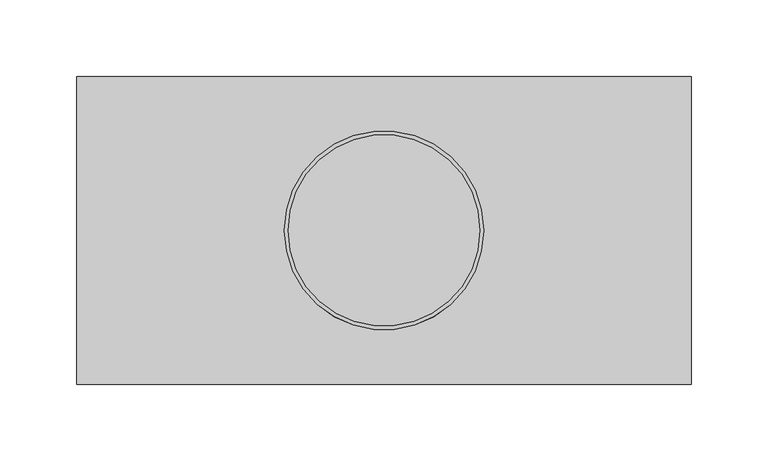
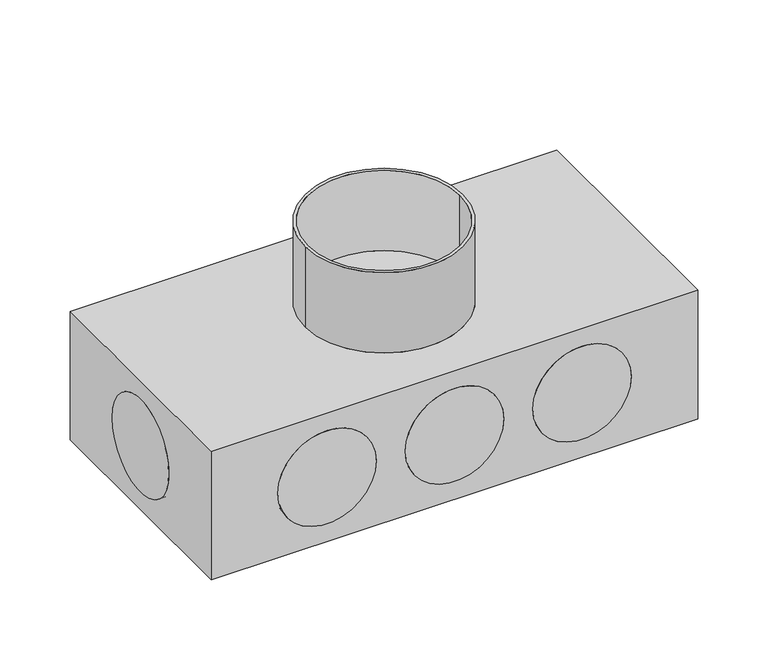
"""IFC4 building model written with IfcOpenShell, lengths in millimetres: duct fitting geometry, NLRS_57_DUF_UN_air extraction plenum rectangular 400x200_M&G : 225#8 (H=110)."""

from ifc_helpers import new_model, si_unit, frame, origin, origin_with_axes, place, context, project, spatial, polyline, circle_curve, ellipse_curve, source, transform, mapped, element, save
from ifc_brep_helpers import plane_surface, cylinder_surface, revolved_surface, advanced_brep


def duct_fitting_607b8d79(model_context):
    return source(origin(), model_context, "Body", "AdvancedBrep", [
        advanced_brep(
        [(-145.5, -100.5, 56.0), (-64.5, -100.5, 56.0), (-40.5, -100.5, 56.0), (40.5, -100.5, 56.0), (64.5, -100.5, 56.0), (145.5, -100.5, 56.0), (-145.5, 100.5, 56.0), (-64.5, 100.5, 56.0), (-40.5, 100.5, 56.0), (40.5, 100.5, 56.0), (64.5, 100.5, 56.0), (145.5, 100.5, 56.0), (-145.5, -40.5, 56.0), (-105.0, 0.0, 15.5), (-64.5, -40.5, 56.0), (-64.5, 40.5, 56.0), (-145.5, 40.5, 56.0), (-105.0, 0.0, 96.5), (-40.5, -40.5, 56.0), (0.0, 0.0, 15.5), (40.5, -40.5, 56.0), (40.5, 40.5, 56.0), (-40.5, 40.5, 56.0), (0.0, 0.0, 96.5), (64.5, -40.5, 56.0), (105.0, 0.0, 15.5), (145.5, -40.5, 56.0), (145.5, 40.5, 56.0), (64.5, 40.5, 56.0), (105.0, 0.0, 96.5), (200.5, -40.5, 56.0), (200.5, 40.5, 56.0), (-200.5, -40.5, 56.0), (-200.5, 40.5, 56.0)],
        [
            (0, 1, circle_curve(frame((-105.0, -100.5, 56.0), z_axis=(0.0, -1.0, 0.0), x_axis=(1.0, 0.0, 0.0)), 40.5)),
            (1, 0, circle_curve(frame((-105.0, -100.5, 56.0), z_axis=(0.0, -1.0, 0.0), x_axis=(1.0, 0.0, 0.0)), 40.5)),
            (2, 3, circle_curve(frame((0.0, -100.5, 56.0), z_axis=(0.0, -1.0, 0.0), x_axis=(1.0, 0.0, 0.0)), 40.5)),
            (3, 2, circle_curve(frame((0.0, -100.5, 56.0), z_axis=(0.0, -1.0, 0.0), x_axis=(1.0, 0.0, 0.0)), 40.5)),
            (4, 5, circle_curve(frame((105.0, -100.5, 56.0), z_axis=(0.0, -1.0, 0.0), x_axis=(1.0, 0.0, 0.0)), 40.5)),
            (5, 4, circle_curve(frame((105.0, -100.5, 56.0), z_axis=(0.0, -1.0, 0.0), x_axis=(1.0, 0.0, 0.0)), 40.5)),
            (6, 7, circle_curve(frame((-105.0, 100.5, 56.0), z_axis=(0.0, 1.0, 0.0), x_axis=(1.0, 0.0, 0.0)), 40.5)),
            (7, 6, circle_curve(frame((-105.0, 100.5, 56.0), z_axis=(0.0, 1.0, 0.0), x_axis=(1.0, 0.0, 0.0)), 40.5)),
            (8, 9, circle_curve(frame((0.0, 100.5, 56.0), z_axis=(0.0, 1.0, 0.0), x_axis=(1.0, 0.0, 0.0)), 40.5)),
            (9, 8, circle_curve(frame((0.0, 100.5, 56.0), z_axis=(0.0, 1.0, 0.0), x_axis=(1.0, 0.0, 0.0)), 40.5)),
            (10, 11, circle_curve(frame((105.0, 100.5, 56.0), z_axis=(0.0, 1.0, 0.0), x_axis=(1.0, 0.0, 0.0)), 40.5)),
            (11, 10, circle_curve(frame((105.0, 100.5, 56.0), z_axis=(0.0, 1.0, 0.0), x_axis=(1.0, 0.0, 0.0)), 40.5)),
            (0, 12),
            (12, 13, ellipse_curve(frame((-105.0, 0.0, 56.0), z_axis=(0.7071067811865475, -0.7071067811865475, 0.0), x_axis=(-0.7071067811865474, -0.7071067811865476, 0.0)), 57.2756493, 40.5)),
            (13, 14, ellipse_curve(frame((-105.0, 0.0, 56.0), z_axis=(-0.7071067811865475, -0.7071067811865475, 0.0), x_axis=(0.7071067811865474, -0.7071067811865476, 0.0)), 57.2756493, 40.5)),
            (14, 1),
            (7, 15),
            (15, 13, ellipse_curve(frame((-105.0, 0.0, 56.0), z_axis=(-0.7071067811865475, 0.7071067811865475, 0.0), x_axis=(-0.7071067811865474, -0.7071067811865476, 0.0)), 57.2756493, 40.5)),
            (13, 16, ellipse_curve(frame((-105.0, 0.0, 56.0), z_axis=(0.7071067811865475, 0.7071067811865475, 0.0), x_axis=(0.7071067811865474, -0.7071067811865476, 0.0)), 57.2756493, 40.5)),
            (16, 6),
            (14, 17, ellipse_curve(frame((-105.0, 0.0, 56.0), z_axis=(-0.7071067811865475, -0.7071067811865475, 0.0), x_axis=(0.7071067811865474, -0.7071067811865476, 0.0)), 57.2756493, 40.5)),
            (17, 12, ellipse_curve(frame((-105.0, 0.0, 56.0), z_axis=(0.7071067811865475, -0.7071067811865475, 0.0), x_axis=(-0.7071067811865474, -0.7071067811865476, 0.0)), 57.2756493, 40.5)),
            (16, 17, ellipse_curve(frame((-105.0, 0.0, 56.0), z_axis=(0.7071067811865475, 0.7071067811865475, 0.0), x_axis=(0.7071067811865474, -0.7071067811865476, 0.0)), 57.2756493, 40.5)),
            (17, 15, ellipse_curve(frame((-105.0, 0.0, 56.0), z_axis=(-0.7071067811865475, 0.7071067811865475, 0.0), x_axis=(-0.7071067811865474, -0.7071067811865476, 0.0)), 57.2756493, 40.5)),
            (2, 18),
            (18, 19, ellipse_curve(frame((0.0, 0.0, 56.0), z_axis=(0.7071067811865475, -0.7071067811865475, 0.0), x_axis=(-0.7071067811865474, -0.7071067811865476, 0.0)), 57.2756493, 40.5)),
            (19, 20, ellipse_curve(frame((0.0, 0.0, 56.0), z_axis=(-0.7071067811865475, -0.7071067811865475, 0.0), x_axis=(0.7071067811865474, -0.7071067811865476, 0.0)), 57.2756493, 40.5)),
            (20, 3),
            (9, 21),
            (21, 19, ellipse_curve(frame((0.0, 0.0, 56.0), z_axis=(-0.7071067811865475, 0.7071067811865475, 0.0), x_axis=(-0.7071067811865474, -0.7071067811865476, 0.0)), 57.2756493, 40.5)),
            (19, 22, ellipse_curve(frame((0.0, 0.0, 56.0), z_axis=(0.7071067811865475, 0.7071067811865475, 0.0), x_axis=(0.7071067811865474, -0.7071067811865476, 0.0)), 57.2756493, 40.5)),
            (22, 8),
            (20, 23, ellipse_curve(frame((0.0, 0.0, 56.0), z_axis=(-0.7071067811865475, -0.7071067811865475, 0.0), x_axis=(0.7071067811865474, -0.7071067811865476, 0.0)), 57.2756493, 40.5)),
            (23, 18, ellipse_curve(frame((0.0, 0.0, 56.0), z_axis=(0.7071067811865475, -0.7071067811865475, 0.0), x_axis=(-0.7071067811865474, -0.7071067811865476, 0.0)), 57.2756493, 40.5)),
            (22, 23, ellipse_curve(frame((0.0, 0.0, 56.0), z_axis=(0.7071067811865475, 0.7071067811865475, 0.0), x_axis=(0.7071067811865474, -0.7071067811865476, 0.0)), 57.2756493, 40.5)),
            (23, 21, ellipse_curve(frame((0.0, 0.0, 56.0), z_axis=(-0.7071067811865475, 0.7071067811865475, 0.0), x_axis=(-0.7071067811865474, -0.7071067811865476, 0.0)), 57.2756493, 40.5)),
            (4, 24),
            (24, 25, ellipse_curve(frame((105.0, 0.0, 56.0), z_axis=(0.7071067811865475, -0.7071067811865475, 0.0), x_axis=(-0.7071067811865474, -0.7071067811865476, 0.0)), 57.2756493, 40.5)),
            (25, 26, ellipse_curve(frame((105.0, 0.0, 56.0), z_axis=(-0.7071067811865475, -0.7071067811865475, 0.0), x_axis=(0.7071067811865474, -0.7071067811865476, 0.0)), 57.2756493, 40.5)),
            (26, 5),
            (11, 27),
            (27, 25, ellipse_curve(frame((105.0, 0.0, 56.0), z_axis=(-0.7071067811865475, 0.7071067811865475, 0.0), x_axis=(-0.7071067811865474, -0.7071067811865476, 0.0)), 57.2756493, 40.5)),
            (25, 28, ellipse_curve(frame((105.0, 0.0, 56.0), z_axis=(0.7071067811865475, 0.7071067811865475, 0.0), x_axis=(0.7071067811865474, -0.7071067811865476, 0.0)), 57.2756493, 40.5)),
            (28, 10),
            (26, 29, ellipse_curve(frame((105.0, 0.0, 56.0), z_axis=(-0.7071067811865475, -0.7071067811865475, 0.0), x_axis=(0.7071067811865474, -0.7071067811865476, 0.0)), 57.2756493, 40.5)),
            (29, 24, ellipse_curve(frame((105.0, 0.0, 56.0), z_axis=(0.7071067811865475, -0.7071067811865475, 0.0), x_axis=(-0.7071067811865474, -0.7071067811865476, 0.0)), 57.2756493, 40.5)),
            (28, 29, ellipse_curve(frame((105.0, 0.0, 56.0), z_axis=(0.7071067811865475, 0.7071067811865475, 0.0), x_axis=(0.7071067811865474, -0.7071067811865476, 0.0)), 57.2756493, 40.5)),
            (29, 27, ellipse_curve(frame((105.0, 0.0, 56.0), z_axis=(-0.7071067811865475, 0.7071067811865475, 0.0), x_axis=(-0.7071067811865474, -0.7071067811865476, 0.0)), 57.2756493, 40.5)),
            (30, 31, circle_curve(frame((200.5, 0.0, 56.0), z_axis=(1.0, 0.0, 0.0), x_axis=(0.0, 1.0, 0.0)), 40.5)),
            (31, 30, circle_curve(frame((200.5, 0.0, 56.0), z_axis=(1.0, 0.0, 0.0), x_axis=(0.0, 1.0, 0.0)), 40.5)),
            (32, 33, circle_curve(frame((-200.5, 0.0, 56.0), z_axis=(-1.0, 0.0, 0.0), x_axis=(0.0, 1.0, 0.0)), 40.5)),
            (33, 32, circle_curve(frame((-200.5, 0.0, 56.0), z_axis=(-1.0, 0.0, 0.0), x_axis=(0.0, 1.0, 0.0)), 40.5)),
            (30, 26),
            (27, 31),
            (33, 16),
            (12, 32),
            (15, 22),
            (18, 14),
            (21, 28),
            (24, 20),
        ],
        [
            plane_surface(frame((-64.5, -100.5, 56.0), z_axis=(0.0, -1.0, 0.0), x_axis=(0.0, 0.0, 1.0))),
            plane_surface(frame((-64.5, 100.5, 56.0), z_axis=(0.0, 1.0, 0.0), x_axis=(0.0, 0.0, -1.0))),
            cylinder_surface(frame((-105.0, 100.5, 56.0), z_axis=(0.0, -1.0, 0.0), x_axis=(1.0, 0.0, 0.0)), 40.5),
            cylinder_surface(frame((0.0, 0.0, 56.0), z_axis=(0.0, -1.0, 0.0), x_axis=(1.0, 0.0, 0.0)), 40.5),
            cylinder_surface(frame((105.0, 0.0, 56.0), z_axis=(0.0, -1.0, 0.0), x_axis=(1.0, 0.0, 0.0)), 40.5),
            plane_surface(frame((200.5, 40.5, 56.0), z_axis=(1.0, 0.0, 0.0), x_axis=(0.0, 0.0, 1.0))),
            plane_surface(frame((-200.5, 40.5, 56.0), z_axis=(-1.0, 0.0, 0.0), x_axis=(0.0, 0.0, -1.0))),
            cylinder_surface(frame((-200.5, 0.0, 56.0), z_axis=(1.0, 0.0, 0.0), x_axis=(0.0, 1.0, 0.0)), 40.5),
        ],
        [
            (0, [[1, 2]]),
            (0, [[3, 4]]),
            (0, [[5, 6]]),
            (1, [[7, 8]]),
            (1, [[9, 10]]),
            (1, [[11, 12]]),
            (2, [[-1, 13, 14, 15, 16]]),
            (2, [[-8, 17, 18, 19, 20]]),
            (2, [[-2, -16, 21, 22, -13]]),
            (2, [[-7, -20, 23, 24, -17]]),
            (3, [[-3, 25, 26, 27, 28]]),
            (3, [[-10, 29, 30, 31, 32]]),
            (3, [[-4, -28, 33, 34, -25]]),
            (3, [[-9, -32, 35, 36, -29]]),
            (4, [[-5, 37, 38, 39, 40]]),
            (4, [[-12, 41, 42, 43, 44]]),
            (4, [[-6, -40, 45, 46, -37]]),
            (4, [[-11, -44, 47, 48, -41]]),
            (5, [[49, 50]]),
            (6, [[51, 52]]),
            (7, [[-49, 53, -39, -42, 54]]),
            (7, [[-52, 55, -19, -14, 56]]),
            (7, [[57, -31, -26, 58, -15, -18]]),
            (7, [[59, -43, -38, 60, -27, -30]]),
            (7, [[-50, -54, -48, -45, -53]]),
            (7, [[-51, -56, -22, -23, -55]]),
            (7, [[-57, -24, -21, -58, -34, -35]]),
            (7, [[-59, -36, -33, -60, -46, -47]]),
        ],
    ),
        advanced_brep(
        [(200.5, 100.5, 112.0), (-200.5, 100.5, 112.0), (-200.5, -100.5, 112.0), (200.5, -100.5, 112.0), (-65.0, 0.0, 112.0), (65.0, 0.0, 112.0), (-62.5, 0.0, 112.0), (62.5, 0.0, 112.0), (200.5, 100.5, 0.0), (200.5, -100.5, 0.0), (-200.5, -100.5, 0.0), (-200.5, 100.5, 0.0), (-145.5, 100.5, 56.0), (-64.5, 100.5, 56.0), (-40.5, 100.5, 56.0), (40.5, 100.5, 56.0), (64.5, 100.5, 56.0), (145.5, 100.5, 56.0), (-200.5, -40.5, 56.0), (-200.5, 40.5, 56.0), (-64.5, -100.5, 56.0), (-145.5, -100.5, 56.0), (40.5, -100.5, 56.0), (-40.5, -100.5, 56.0), (145.5, -100.5, 56.0), (64.5, -100.5, 56.0), (200.5, 40.5, 56.0), (200.5, -40.5, 56.0), (-65.0, 0.0, 182.0), (65.0, 0.0, 182.0), (-62.5, 0.0, 182.0), (62.5, 0.0, 182.0), (-145.5, 40.5, 56.0), (-105.0, 0.0, 15.5), (-64.5, 40.5, 56.0), (-64.5, -40.5, 56.0), (-145.5, -40.5, 56.0), (-105.0, 0.0, 96.5), (-40.5, 40.5, 56.0), (0.0, 0.0, 15.5), (40.5, 40.5, 56.0), (40.5, -40.5, 56.0), (-40.5, -40.5, 56.0), (0.0, 0.0, 96.5), (64.5, 40.5, 56.0), (105.0, 0.0, 15.5), (145.5, 40.5, 56.0), (145.5, -40.5, 56.0), (64.5, -40.5, 56.0), (105.0, 0.0, 96.5)],
        [
            (0, 1),
            (1, 2),
            (2, 3),
            (3, 0),
            (4, 5, circle_curve(frame((0.0, 0.0, 112.0), z_axis=(0.0, 0.0, -1.0), x_axis=(1.0, 0.0, 0.0)), 65.0)),
            (5, 4, circle_curve(frame((0.0, 0.0, 112.0), z_axis=(0.0, 0.0, -1.0), x_axis=(1.0, 0.0, 0.0)), 65.0)),
            (6, 7, circle_curve(frame((0.0, 0.0, 112.0), z_axis=(0.0, 0.0, 1.0), x_axis=(1.0, 0.0, 0.0)), 62.5)),
            (7, 6, circle_curve(frame((0.0, 0.0, 112.0), z_axis=(0.0, 0.0, 1.0), x_axis=(1.0, 0.0, 0.0)), 62.5)),
            (8, 9),
            (9, 10),
            (10, 11),
            (11, 8),
            (0, 8),
            (11, 1),
            (12, 13, circle_curve(frame((-105.0, 100.5, 56.0), z_axis=(0.0, -1.0, 0.0), x_axis=(1.0, 0.0, 0.0)), 40.5)),
            (13, 12, circle_curve(frame((-105.0, 100.5, 56.0), z_axis=(0.0, -1.0, 0.0), x_axis=(1.0, 0.0, 0.0)), 40.5)),
            (14, 15, circle_curve(frame((0.0, 100.5, 56.0), z_axis=(0.0, -1.0, 0.0), x_axis=(1.0, 0.0, 0.0)), 40.5)),
            (15, 14, circle_curve(frame((0.0, 100.5, 56.0), z_axis=(0.0, -1.0, 0.0), x_axis=(1.0, 0.0, 0.0)), 40.5)),
            (16, 17, circle_curve(frame((105.0, 100.5, 56.0), z_axis=(0.0, -1.0, 0.0), x_axis=(1.0, 0.0, 0.0)), 40.5)),
            (17, 16, circle_curve(frame((105.0, 100.5, 56.0), z_axis=(0.0, -1.0, 0.0), x_axis=(1.0, 0.0, 0.0)), 40.5)),
            (10, 2),
            (18, 19, circle_curve(frame((-200.5, 0.0, 56.0), z_axis=(1.0, 0.0, 0.0), x_axis=(0.0, 1.0, 0.0)), 40.5)),
            (19, 18, circle_curve(frame((-200.5, 0.0, 56.0), z_axis=(1.0, 0.0, 0.0), x_axis=(0.0, 1.0, 0.0)), 40.5)),
            (9, 3),
            (20, 21, circle_curve(frame((-105.0, -100.5, 56.0), z_axis=(0.0, 1.0, 0.0), x_axis=(1.0, 0.0, 0.0)), 40.5)),
            (21, 20, circle_curve(frame((-105.0, -100.5, 56.0), z_axis=(0.0, 1.0, 0.0), x_axis=(1.0, 0.0, 0.0)), 40.5)),
            (22, 23, circle_curve(frame((0.0, -100.5, 56.0), z_axis=(0.0, 1.0, 0.0), x_axis=(1.0, 0.0, 0.0)), 40.5)),
            (23, 22, circle_curve(frame((0.0, -100.5, 56.0), z_axis=(0.0, 1.0, 0.0), x_axis=(1.0, 0.0, 0.0)), 40.5)),
            (24, 25, circle_curve(frame((105.0, -100.5, 56.0), z_axis=(0.0, 1.0, 0.0), x_axis=(1.0, 0.0, 0.0)), 40.5)),
            (25, 24, circle_curve(frame((105.0, -100.5, 56.0), z_axis=(0.0, 1.0, 0.0), x_axis=(1.0, 0.0, 0.0)), 40.5)),
            (26, 27, circle_curve(frame((200.5, 0.0, 56.0), z_axis=(-1.0, 0.0, 0.0), x_axis=(0.0, 1.0, 0.0)), 40.5)),
            (27, 26, circle_curve(frame((200.5, 0.0, 56.0), z_axis=(-1.0, 0.0, 0.0), x_axis=(0.0, 1.0, 0.0)), 40.5)),
            (28, 29, circle_curve(frame((0.0, 0.0, 182.0), z_axis=(0.0, 0.0, 1.0), x_axis=(1.0, 0.0, 0.0)), 65.0)),
            (29, 28, circle_curve(frame((0.0, 0.0, 182.0), z_axis=(0.0, 0.0, 1.0), x_axis=(1.0, 0.0, 0.0)), 65.0)),
            (30, 31, circle_curve(frame((0.0, 0.0, 182.0), z_axis=(0.0, 0.0, -1.0), x_axis=(1.0, 0.0, 0.0)), 62.5)),
            (31, 30, circle_curve(frame((0.0, 0.0, 182.0), z_axis=(0.0, 0.0, -1.0), x_axis=(1.0, 0.0, 0.0)), 62.5)),
            (31, 7),
            (6, 30),
            (29, 5),
            (4, 28),
            (12, 32),
            (32, 33, ellipse_curve(frame((-105.0, 0.0, 56.0), z_axis=(-0.7071067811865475, -0.7071067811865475, 0.0), x_axis=(0.7071067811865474, -0.7071067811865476, 0.0)), 57.2756493, 40.5)),
            (33, 34, ellipse_curve(frame((-105.0, 0.0, 56.0), z_axis=(0.7071067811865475, -0.7071067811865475, 0.0), x_axis=(-0.7071067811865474, -0.7071067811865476, 0.0)), 57.2756493, 40.5)),
            (34, 13),
            (20, 35),
            (35, 33, ellipse_curve(frame((-105.0, 0.0, 56.0), z_axis=(0.7071067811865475, 0.7071067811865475, 0.0), x_axis=(0.7071067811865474, -0.7071067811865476, 0.0)), 57.2756493, 40.5)),
            (33, 36, ellipse_curve(frame((-105.0, 0.0, 56.0), z_axis=(-0.7071067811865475, 0.7071067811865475, 0.0), x_axis=(-0.7071067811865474, -0.7071067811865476, 0.0)), 57.2756493, 40.5)),
            (36, 21),
            (34, 37, ellipse_curve(frame((-105.0, 0.0, 56.0), z_axis=(0.7071067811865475, -0.7071067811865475, 0.0), x_axis=(-0.7071067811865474, -0.7071067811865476, 0.0)), 57.2756493, 40.5)),
            (37, 32, ellipse_curve(frame((-105.0, 0.0, 56.0), z_axis=(-0.7071067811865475, -0.7071067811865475, 0.0), x_axis=(0.7071067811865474, -0.7071067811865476, 0.0)), 57.2756493, 40.5)),
            (36, 37, ellipse_curve(frame((-105.0, 0.0, 56.0), z_axis=(-0.7071067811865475, 0.7071067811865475, 0.0), x_axis=(-0.7071067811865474, -0.7071067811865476, 0.0)), 57.2756493, 40.5)),
            (37, 35, ellipse_curve(frame((-105.0, 0.0, 56.0), z_axis=(0.7071067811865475, 0.7071067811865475, 0.0), x_axis=(0.7071067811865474, -0.7071067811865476, 0.0)), 57.2756493, 40.5)),
            (14, 38),
            (38, 39, ellipse_curve(frame((0.0, 0.0, 56.0), z_axis=(-0.7071067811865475, -0.7071067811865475, 0.0), x_axis=(0.7071067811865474, -0.7071067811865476, 0.0)), 57.2756493, 40.5)),
            (39, 40, ellipse_curve(frame((0.0, 0.0, 56.0), z_axis=(0.7071067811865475, -0.7071067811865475, 0.0), x_axis=(-0.7071067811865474, -0.7071067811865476, 0.0)), 57.2756493, 40.5)),
            (40, 15),
            (22, 41),
            (41, 39, ellipse_curve(frame((0.0, 0.0, 56.0), z_axis=(0.7071067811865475, 0.7071067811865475, 0.0), x_axis=(0.7071067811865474, -0.7071067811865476, 0.0)), 57.2756493, 40.5)),
            (39, 42, ellipse_curve(frame((0.0, 0.0, 56.0), z_axis=(-0.7071067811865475, 0.7071067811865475, 0.0), x_axis=(-0.7071067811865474, -0.7071067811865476, 0.0)), 57.2756493, 40.5)),
            (42, 23),
            (40, 43, ellipse_curve(frame((0.0, 0.0, 56.0), z_axis=(0.7071067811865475, -0.7071067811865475, 0.0), x_axis=(-0.7071067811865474, -0.7071067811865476, 0.0)), 57.2756493, 40.5)),
            (43, 38, ellipse_curve(frame((0.0, 0.0, 56.0), z_axis=(-0.7071067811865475, -0.7071067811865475, 0.0), x_axis=(0.7071067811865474, -0.7071067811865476, 0.0)), 57.2756493, 40.5)),
            (42, 43, ellipse_curve(frame((0.0, 0.0, 56.0), z_axis=(-0.7071067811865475, 0.7071067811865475, 0.0), x_axis=(-0.7071067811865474, -0.7071067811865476, 0.0)), 57.2756493, 40.5)),
            (43, 41, ellipse_curve(frame((0.0, 0.0, 56.0), z_axis=(0.7071067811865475, 0.7071067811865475, 0.0), x_axis=(0.7071067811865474, -0.7071067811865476, 0.0)), 57.2756493, 40.5)),
            (16, 44),
            (44, 45, ellipse_curve(frame((105.0, 0.0, 56.0), z_axis=(-0.7071067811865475, -0.7071067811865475, 0.0), x_axis=(0.7071067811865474, -0.7071067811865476, 0.0)), 57.2756493, 40.5)),
            (45, 46, ellipse_curve(frame((105.0, 0.0, 56.0), z_axis=(0.7071067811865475, -0.7071067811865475, 0.0), x_axis=(-0.7071067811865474, -0.7071067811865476, 0.0)), 57.2756493, 40.5)),
            (46, 17),
            (24, 47),
            (47, 45, ellipse_curve(frame((105.0, 0.0, 56.0), z_axis=(0.7071067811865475, 0.7071067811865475, 0.0), x_axis=(0.7071067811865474, -0.7071067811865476, 0.0)), 57.2756493, 40.5)),
            (45, 48, ellipse_curve(frame((105.0, 0.0, 56.0), z_axis=(-0.7071067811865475, 0.7071067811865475, 0.0), x_axis=(-0.7071067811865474, -0.7071067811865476, 0.0)), 57.2756493, 40.5)),
            (48, 25),
            (46, 49, ellipse_curve(frame((105.0, 0.0, 56.0), z_axis=(0.7071067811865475, -0.7071067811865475, 0.0), x_axis=(-0.7071067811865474, -0.7071067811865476, 0.0)), 57.2756493, 40.5)),
            (49, 44, ellipse_curve(frame((105.0, 0.0, 56.0), z_axis=(-0.7071067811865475, -0.7071067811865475, 0.0), x_axis=(0.7071067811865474, -0.7071067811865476, 0.0)), 57.2756493, 40.5)),
            (48, 49, ellipse_curve(frame((105.0, 0.0, 56.0), z_axis=(-0.7071067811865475, 0.7071067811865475, 0.0), x_axis=(-0.7071067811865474, -0.7071067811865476, 0.0)), 57.2756493, 40.5)),
            (49, 47, ellipse_curve(frame((105.0, 0.0, 56.0), z_axis=(0.7071067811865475, 0.7071067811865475, 0.0), x_axis=(0.7071067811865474, -0.7071067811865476, 0.0)), 57.2756493, 40.5)),
            (18, 36),
            (32, 19),
            (35, 42),
            (38, 34),
            (41, 48),
            (44, 40),
            (26, 46),
            (47, 27),
        ],
        [
            plane_surface(frame((-200.5, 100.5, 112.0), z_axis=(0.0, 0.0, 1.0), x_axis=(-1.0, 0.0, 0.0))),
            plane_surface(frame((-200.5, 100.5, 0.0), z_axis=(0.0, 0.0, -1.0), x_axis=(1.0, 0.0, 0.0))),
            plane_surface(frame((200.5, 100.5, 112.0), z_axis=(0.0, 1.0, 0.0), x_axis=(0.0, 0.0, -1.0))),
            plane_surface(frame((-200.5, 100.5, 112.0), z_axis=(-1.0, 0.0, 0.0), x_axis=(0.0, 0.0, -1.0))),
            plane_surface(frame((-200.5, -100.5, 112.0), z_axis=(0.0, -1.0, 0.0), x_axis=(0.0, 0.0, -1.0))),
            plane_surface(frame((200.5, -100.5, 112.0), z_axis=(1.0, 0.0, 0.0), x_axis=(0.0, 0.0, -1.0))),
            plane_surface(frame((62.5, 0.0, 182.0), z_axis=(0.0, 0.0, 1.0), x_axis=(0.0, -1.0, 0.0))),
            revolved_surface(polyline([(62.5, 0.0, 112.0), (62.5, 0.0, 182.0)]), (0.0, 0.0, 112.0), (0.0, 0.0, -1.0)),
            cylinder_surface(origin_with_axes(), 65.0),
            revolved_surface(polyline([(-64.5, -40.50000001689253, 56.0), (-64.5, 100.5, 56.0)]), (-105.0, 100.5, 56.0), (0.0, -1.0, 0.0)),
            revolved_surface(polyline([(-64.5, -100.5, 56.0), (-64.5, 40.500000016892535, 56.0)]), (-105.0, 100.5, 56.0), (0.0, -1.0, 0.0)),
            revolved_surface(polyline([(40.5, -40.500000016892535, 56.0), (40.5, 100.5, 56.0)]), (0.0, 0.0, 56.0), (0.0, -1.0, 0.0)),
            revolved_surface(polyline([(40.5, -100.5, 56.0), (40.5, 40.500000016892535, 56.0)]), (0.0, 0.0, 56.0), (0.0, -1.0, 0.0)),
            revolved_surface(polyline([(145.5, -40.500000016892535, 56.0), (145.5, 100.5, 56.0)]), (105.0, 0.0, 56.0), (0.0, -1.0, 0.0)),
            revolved_surface(polyline([(145.5, -100.5, 56.0), (145.5, 40.500000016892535, 56.0)]), (105.0, 0.0, 56.0), (0.0, -1.0, 0.0)),
            revolved_surface(polyline([(-64.49999998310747, 40.5, 56.0), (-200.5, 40.5, 56.0)]), (-200.5, 0.0, 56.0), (1.0, 0.0, 0.0)),
            revolved_surface(polyline([(40.50000001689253, 40.5, 56.0), (-145.50000001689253, 40.5, 56.0)]), (-200.5, 0.0, 56.0), (1.0, 0.0, 0.0)),
            revolved_surface(polyline([(145.5000000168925, 40.5, 56.0), (-40.50000001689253, 40.5, 56.0)]), (-200.5, 0.0, 56.0), (1.0, 0.0, 0.0)),
            revolved_surface(polyline([(200.5, 40.5, 56.0), (64.4999999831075, 40.5, 56.0)]), (-200.5, 0.0, 56.0), (1.0, 0.0, 0.0)),
        ],
        [
            (0, [[1, 2, 3, 4], [5, 6]]),
            (0, [[7, 8]]),
            (1, [[9, 10, 11, 12]]),
            (2, [[-1, 13, -12, 14], [15, 16], [17, 18], [19, 20]]),
            (3, [[-2, -14, -11, 21], [22, 23]]),
            (4, [[-3, -21, -10, 24], [25, 26], [27, 28], [29, 30]]),
            (5, [[-4, -24, -9, -13], [31, 32]]),
            (6, [[33, 34], [35, 36]]),
            (7, [[-36, 37, -7, 38]]),
            (7, [[-35, -38, -8, -37]]),
            (8, [[-34, 39, -5, 40]]),
            (8, [[-33, -40, -6, -39]]),
            (9, [[-15, 41, 42, 43, 44]]),
            (10, [[-25, 45, 46, 47, 48]]),
            (9, [[-16, -44, 49, 50, -41]]),
            (10, [[-26, -48, 51, 52, -45]]),
            (11, [[-17, 53, 54, 55, 56]]),
            (12, [[-27, 57, 58, 59, 60]]),
            (11, [[-18, -56, 61, 62, -53]]),
            (12, [[-28, -60, 63, 64, -57]]),
            (13, [[-19, 65, 66, 67, 68]]),
            (14, [[-29, 69, 70, 71, 72]]),
            (13, [[-20, -68, 73, 74, -65]]),
            (14, [[-30, -72, 75, 76, -69]]),
            (15, [[77, -47, -42, 78, -22]]),
            (16, [[79, -59, -54, 80, -43, -46]]),
            (17, [[81, -71, -66, 82, -55, -58]]),
            (18, [[83, -67, -70, 84, -31]]),
            (15, [[-77, -23, -78, -50, -51]]),
            (16, [[-79, -52, -49, -80, -62, -63]]),
            (17, [[-81, -64, -61, -82, -74, -75]]),
            (18, [[-83, -32, -84, -76, -73]]),
        ],
    ),
    ])


if __name__ == "__main__":
    model = new_model("IFC4")
    model_context = context("Model", 3, world=origin())
    ifc_project = project(units=[si_unit("LENGTHUNIT", "METRE", prefix="MILLI")], contexts=[model_context])
    site = spatial("IfcSite", under=ifc_project)
    building = spatial("IfcBuilding", under=site)
    placement = place(None, origin())
    duct_fitting_shape = duct_fitting_607b8d79(model_context)
    element("IfcDuctFitting", 1, ObjectType="NLRS_57_DUF_UN_air extraction plenum rectangular 400x200_M&G : 225#8 (H=110)", at=placement, inside=building, context=model_context, shape_type="MappedRepresentation", body=[
        mapped(duct_fitting_shape, transform((0.0, 0.0, 0.0), x_axis=(1.0, 0.0, 0.0), y_axis=(0.0, 1.0, 0.0), z_axis=(0.0, 0.0, 1.0))),
    ])
    save(model, "model.ifc")
